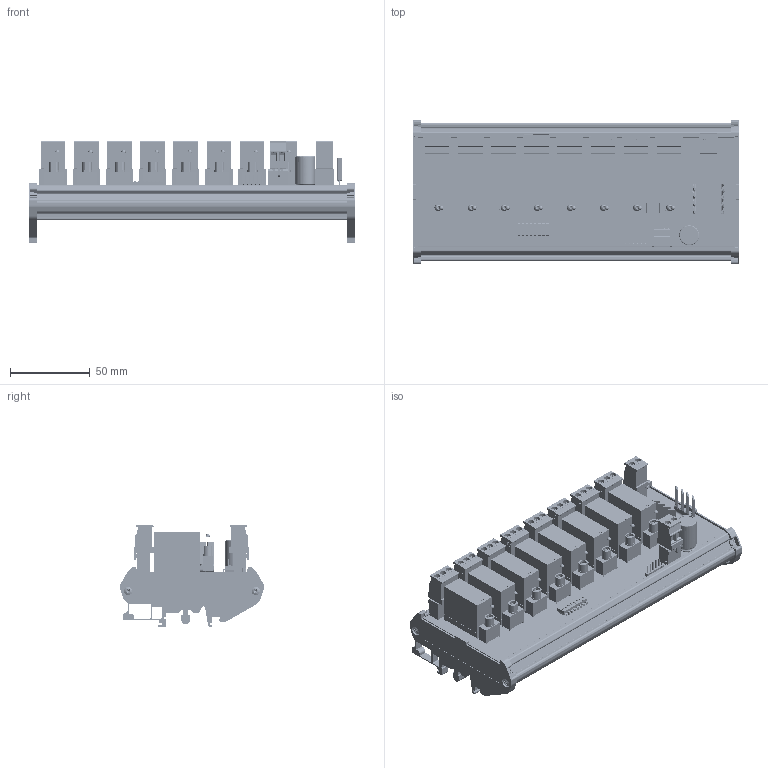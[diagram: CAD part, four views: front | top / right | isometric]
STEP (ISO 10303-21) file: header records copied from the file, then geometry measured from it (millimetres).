
FILE_DESCRIPTION(/* description */ (''),/* implementation_level */ '2;1');
FILE_NAME(/* name */ 'C:/Temp/STEP/DO-8_V200.step',/* time_stamp */ '2020-04-03T13:33:50+03:00',/* author */ (''),/* organization */ (''),/* preprocessor_version */ 'ST-DEVELOPER v18',/* originating_system */ 'Autodesk Translation Framework v8.12.0.6',/* authorisation */ '');
FILE_SCHEMA (('AUTOMOTIVE_DESIGN { 1 0 10303 214 3 1 1 }'));
Products named in the file (1): DO-8_V200
Bounding box: 204 x 89.6 x 64.02 mm (x, y, z)
Volume: 221156.7 mm3; surface area: 180090 mm2
Topology: 56 solids, 57 shells, 7432 faces, 20303 edges, 13554 vertices
Faces by surface type: plane 5623, cylinder 1544, bspline 104, sphere 93, cone 56, torus 12
Full cylindrical faces by diameter (mm): 0.434 x10, 0.457 x10, 0.6 x2, 0.8 x18, 1 x11, 1.2 x40, 1.4 x84, 1.6 x24, 1.71 x36, 2.404 x4, 2.8 x36, 3 x2, 3.1 x4, 3.2 x1, 3.783 x28, 4 x29, 5.15 x4, 6 x4, 10.5 x2
Entity records: 257193 total; most frequent: CARTESIAN_POINT 57876, ORIENTED_EDGE 40525, DIRECTION 38707, EDGE_CURVE 20283, LINE 15089, VECTOR 15089, VERTEX_POINT 13554, AXIS2_PLACEMENT_3D 11809
